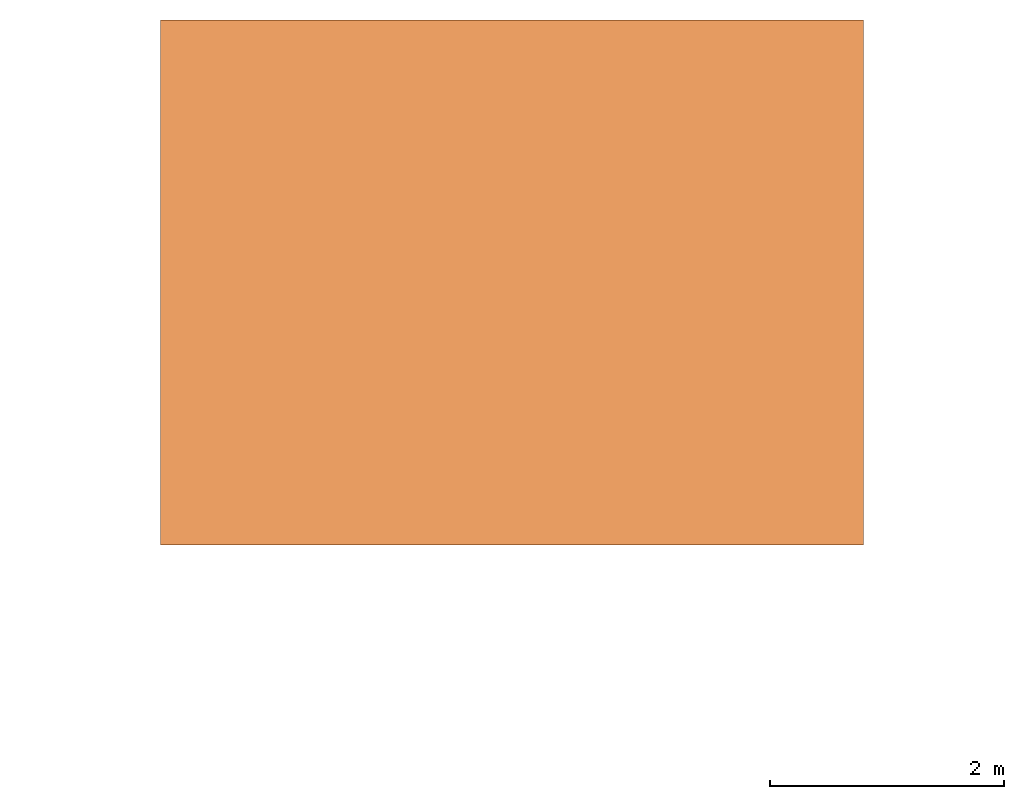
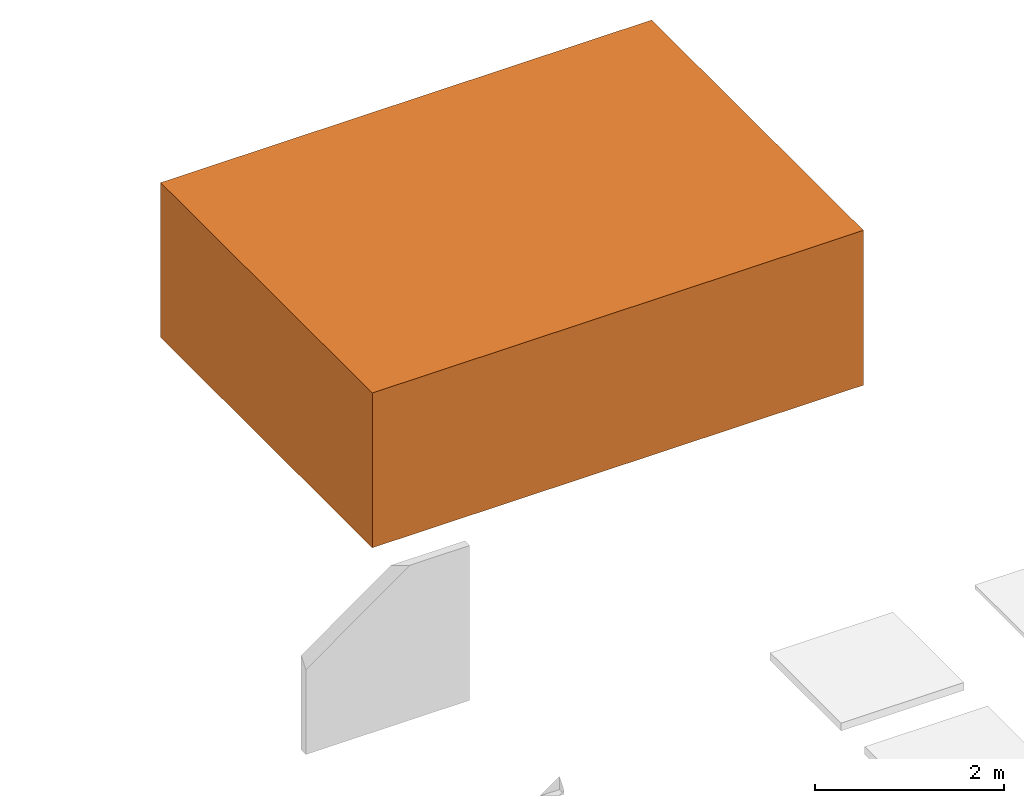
# One storey, part 14 of 14: 1 proxy.
"""IFC2X3 building model written with IfcOpenShell, lengths in millimetres."""

from ifc_helpers import new_model, entity, si_unit, converted_unit, derived_unit, direction, frame, origin, origin_2d_with_axis, place, context, subcontext, project, spatial, rectangle, extrude, source, transform, mapped, material, element, save


model = new_model("IFC2X3")

# Units and contexts
model_context = context("Model", 3, precision=0.01, world=origin(), true_north=direction((6.12303176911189e-17, 1.0)))
context_of_model = context(None, 3, precision=0.01, world=origin(), true_north=direction((6.12303176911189e-17, 1.0)))
body_context = subcontext(model_context, "Body", "Model", "MODEL_VIEW")
ifc_project = project(units=[si_unit("LENGTHUNIT", "METRE", prefix="MILLI"), si_unit("AREAUNIT", "SQUARE_METRE"), si_unit("VOLUMEUNIT", "CUBIC_METRE"), converted_unit("PLANEANGLEUNIT", "DEGREE", entity("IfcRatioMeasure", 0.0174532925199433), si_unit("PLANEANGLEUNIT", "RADIAN"), dimensions=[0, 0, 0, 0, 0, 0, 0]), si_unit("MASSUNIT", "GRAM", prefix="KILO"), si_unit("TIMEUNIT", "SECOND"), si_unit("FREQUENCYUNIT", "HERTZ"), si_unit("THERMODYNAMICTEMPERATUREUNIT", "KELVIN"), derived_unit("THERMALTRANSMITTANCEUNIT", [(si_unit("MASSUNIT", "GRAM", prefix="KILO"), 1), (si_unit("THERMODYNAMICTEMPERATUREUNIT", "KELVIN"), -1), (si_unit("TIMEUNIT", "SECOND"), -3)]), derived_unit("VOLUMETRICFLOWRATEUNIT", [(si_unit("LENGTHUNIT", "METRE"), 3), (si_unit("TIMEUNIT", "SECOND"), -1)]), si_unit("ELECTRICCURRENTUNIT", "AMPERE"), si_unit("ELECTRICVOLTAGEUNIT", "VOLT"), si_unit("POWERUNIT", "WATT")], contexts=[model_context, context_of_model])

# Site, building, storey
site_placement = place(None, origin())
site = spatial("IfcSite", under=ifc_project, at=site_placement, Name="Surface", CompositionType="ELEMENT")
building_placement = place(site_placement, origin())
building = spatial("IfcBuilding", under=site, at=building_placement, CompositionType="ELEMENT")
storey_placement = place(building_placement, origin())
storey = spatial("IfcBuildingStorey", under=building, at=storey_placement, Name="00_begane grond", CompositionType="ELEMENT", Elevation=0.0)

# Proxy
ifc_material = material(Name="000_MA_bestaande bebouwing_IP")
shared_shape = source(origin(), body_context, "Body", "SweptSolid", [
    extrude(rectangle(XDim=4480.69535146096, YDim=5999.99999999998, at=origin_2d_with_axis()), frame((3000.0, 2240.34767573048, 0.0), z_axis=(0.0, 0.0, 1.0), x_axis=(0.0, 1.0, 0.0)), (0.0, 0.0, 1.0), 2000.0),
])
proxy_placement = place(storey_placement, frame((14515.0516086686, 1866.05017385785, 0.0)))
element("IfcBuildingElementProxy", 1, at=proxy_placement, inside=storey, material=ifc_material, Name="00_Mass_bestaand:00_Mass_bestaand", ObjectType="00_Mass_bestaand", CompositionType="ELEMENT", context=body_context, shape_type="MappedRepresentation", body=[
    mapped(shared_shape, transform((0.0, 0.0, 0.0), scale=1.0)),
])

save(model, "model.ifc")
